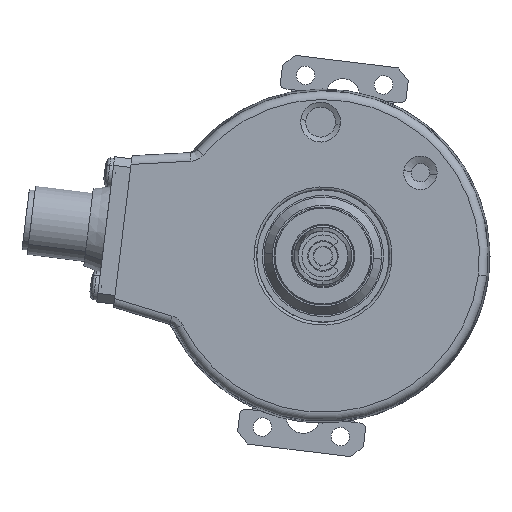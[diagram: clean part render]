
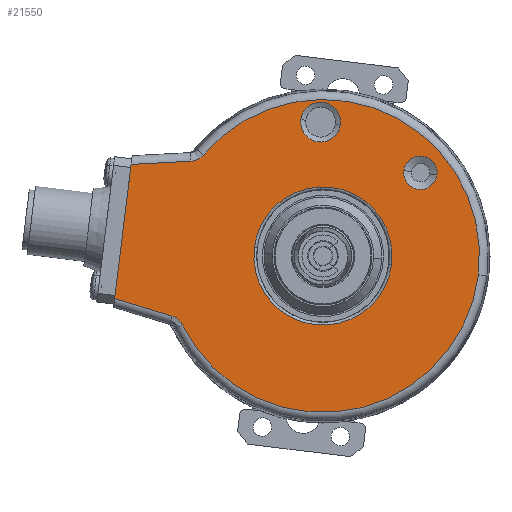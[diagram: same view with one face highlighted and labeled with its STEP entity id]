
A CAD part, left-side view. The second image highlights one B-rep face of the part: STEP entity #21550.
In plain terms, the highlighted planar face has unit normal (-1, 0, 0).
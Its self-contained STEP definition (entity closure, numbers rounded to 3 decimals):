
#19 = VERTEX_POINT ( 'NONE', #14726 ) ;
#40 = VERTEX_POINT ( 'NONE', #14781 ) ;
#44 = EDGE_CURVE ( 'NONE', #40, #19, #14773, .T. ) ;
#50 = VERTEX_POINT ( 'NONE', #14805 ) ;
#53 = EDGE_CURVE ( 'NONE', #50, #133, #14803, .T. ) ;
#129 = VERTEX_POINT ( 'NONE', #14954 ) ;
#133 = VERTEX_POINT ( 'NONE', #15002 ) ;
#1162 = VERTEX_POINT ( 'NONE', #18617 ) ;
#1226 = EDGE_CURVE ( 'NONE', #129, #1229, #18804, .T. ) ;
#1229 = VERTEX_POINT ( 'NONE', #18796 ) ;
#1243 = EDGE_CURVE ( 'NONE', #1253, #1162, #19058, .T. ) ;
#1253 = VERTEX_POINT ( 'NONE', #19048 ) ;
#1295 = VERTEX_POINT ( 'NONE', #19204 ) ;
#1303 = EDGE_CURVE ( 'NONE', #1315, #1295, #19197, .T. ) ;
#1315 = VERTEX_POINT ( 'NONE', #19241 ) ;
#1365 = ORIENTED_EDGE ( 'NONE', *, *, #21578, .T. ) ;
#1366 = ORIENTED_EDGE ( 'NONE', *, *, #44, .T. ) ;
#1368 = ORIENTED_EDGE ( 'NONE', *, *, #21567, .F. ) ;
#1369 = ORIENTED_EDGE ( 'NONE', *, *, #21545, .F. ) ;
#1370 = ORIENTED_EDGE ( 'NONE', *, *, #21742, .F. ) ;
#1371 = ORIENTED_EDGE ( 'NONE', *, *, #1303, .T. ) ;
#1372 = ORIENTED_EDGE ( 'NONE', *, *, #1429, .T. ) ;
#1423 = ORIENTED_EDGE ( 'NONE', *, *, #21558, .T. ) ;
#1426 = VERTEX_POINT ( 'NONE', #19607 ) ;
#1429 = EDGE_CURVE ( 'NONE', #21537, #1426, #19661, .T. ) ;
#1450 = EDGE_LOOP ( 'NONE', ( #1370, #1371, #1369, #1372, #1368, #1365, #1366 ) ) ;
#1454 = ORIENTED_EDGE ( 'NONE', *, *, #53, .T. ) ;
#1455 = ORIENTED_EDGE ( 'NONE', *, *, #21663, .T. ) ;
#1475 = ORIENTED_EDGE ( 'NONE', *, *, #1226, .T. ) ;
#1476 = EDGE_LOOP ( 'NONE', ( #1454, #1455 ) ) ;
#12921 = CARTESIAN_POINT ( 'NONE',  ( -19., 36.168, -7.374 ) ) ;
#12941 = DIRECTION ( 'NONE',  ( 0., -0.122, 0.993 ) ) ;
#12942 = VECTOR ( 'NONE', #12941, 1000. ) ;
#12943 = CARTESIAN_POINT ( 'NONE',  ( -19., 36.354, -8.886 ) ) ;
#12944 = LINE ( 'NONE', #12943, #12942 ) ;
#12954 = PLANE ( 'NONE',  #12956 ) ;
#12955 = CARTESIAN_POINT ( 'NONE',  ( -19., 0., 0. ) ) ;
#12956 = AXIS2_PLACEMENT_3D ( 'NONE', #12955, #13020, #13019 ) ;
#12971 = FACE_OUTER_BOUND ( 'NONE', #1450, .T. ) ;
#12972 = FACE_BOUND ( 'NONE', #1476, .T. ) ;
#12973 = FACE_BOUND ( 'NONE', #21543, .T. ) ;
#12974 = FACE_BOUND ( 'NONE', #21554, .T. ) ;
#12975 = DIRECTION ( 'NONE',  ( 0., -0.993, -0.122 ) ) ;
#12976 = DIRECTION ( 'NONE',  ( 1., 0., 0. ) ) ;
#12977 = CARTESIAN_POINT ( 'NONE',  ( -19., -16.919, 14.45 ) ) ;
#12978 = AXIS2_PLACEMENT_3D ( 'NONE', #12977, #12976, #12975 ) ;
#12979 = CIRCLE ( 'NONE', #12978, 2.899 ) ;
#12985 = CARTESIAN_POINT ( 'NONE',  ( -19., 25.828, -10.557 ) ) ;
#12986 = CARTESIAN_POINT ( 'NONE',  ( -19., 25.471, -10.753 ) ) ;
#12987 = CARTESIAN_POINT ( 'NONE',  ( -19., 25.3, -10.87 ) ) ;
#12988 = CARTESIAN_POINT ( 'NONE',  ( -19., 24.989, -11.135 ) ) ;
#12989 = CARTESIAN_POINT ( 'NONE',  ( -19., 24.848, -11.282 ) ) ;
#12990 = CARTESIAN_POINT ( 'NONE',  ( -19., 24.597, -11.605 ) ) ;
#12991 = CARTESIAN_POINT ( 'NONE',  ( -19., 24.487, -11.781 ) ) ;
#12992 = CARTESIAN_POINT ( 'NONE',  ( -19., 24.396, -11.966 ) ) ;
#13002 = B_SPLINE_CURVE_WITH_KNOTS ( 'NONE', 3,
 ( #12992, #12991, #12990, #12989, #12988, #12987, #12986, #12985, #13048, #13047 ),
 .UNSPECIFIED., .F., .F.,
 ( 4, 2, 2, 2, 4 ),
 ( 0., 0.001, 0.001, 0.002, 0.002 ),
 .UNSPECIFIED. ) ;
#13007 = DIRECTION ( 'NONE',  ( 0., -0.993, -0.122 ) ) ;
#13008 = DIRECTION ( 'NONE',  ( 1., 0., 0. ) ) ;
#13009 = CARTESIAN_POINT ( 'NONE',  ( -19., 0.406, 23.246 ) ) ;
#13010 = AXIS2_PLACEMENT_3D ( 'NONE', #13009, #13008, #13007 ) ;
#13011 = CIRCLE ( 'NONE', #13010, 3.466 ) ;
#13019 = DIRECTION ( 'NONE',  ( 0., -0.993, -0.122 ) ) ;
#13020 = DIRECTION ( 'NONE',  ( 1., 0., 0. ) ) ;
#13047 = CARTESIAN_POINT ( 'NONE',  ( -19., 26.213, -10.418 ) ) ;
#13048 = CARTESIAN_POINT ( 'NONE',  ( -19., 26.016, -10.478 ) ) ;
#13095 = DIRECTION ( 'NONE',  ( 0., -0.993, -0.122 ) ) ;
#13096 = DIRECTION ( 'NONE',  ( -1., 0., 0. ) ) ;
#13192 = CARTESIAN_POINT ( 'NONE',  ( -19., 0., 0. ) ) ;
#13193 = AXIS2_PLACEMENT_3D ( 'NONE', #13192, #13096, #13095 ) ;
#13194 = CIRCLE ( 'NONE', #13193, 27.173 ) ;
#13487 = DIRECTION ( 'NONE',  ( 0., -0.993, -0.122 ) ) ;
#13488 = DIRECTION ( 'NONE',  ( 1., 0., 0. ) ) ;
#13489 = CARTESIAN_POINT ( 'NONE',  ( -19., 0., 0. ) ) ;
#13490 = AXIS2_PLACEMENT_3D ( 'NONE', #13489, #13488, #13487 ) ;
#13496 = CIRCLE ( 'NONE', #13490, 12. ) ;
#13770 = CARTESIAN_POINT ( 'NONE',  ( -19., 20.777, 17.512 ) ) ;
#13771 = CARTESIAN_POINT ( 'NONE',  ( -19., 20.91, 17.355 ) ) ;
#13772 = CARTESIAN_POINT ( 'NONE',  ( -19., 21.056, 17.213 ) ) ;
#13773 = CARTESIAN_POINT ( 'NONE',  ( -19., 21.376, 16.962 ) ) ;
#13774 = CARTESIAN_POINT ( 'NONE',  ( -19., 21.552, 16.851 ) ) ;
#13775 = CARTESIAN_POINT ( 'NONE',  ( -19., 21.917, 16.669 ) ) ;
#13776 = CARTESIAN_POINT ( 'NONE',  ( -19., 22.108, 16.597 ) ) ;
#13777 = CARTESIAN_POINT ( 'NONE',  ( -19., 22.503, 16.493 ) ) ;
#13778 = CARTESIAN_POINT ( 'NONE',  ( -19., 22.708, 16.461 ) ) ;
#13779 = CARTESIAN_POINT ( 'NONE',  ( -19., 22.914, 16.45 ) ) ;
#13782 = CARTESIAN_POINT ( 'NONE',  ( -19., 24.396, -11.966 ) ) ;
#13783 = B_SPLINE_CURVE_WITH_KNOTS ( 'NONE', 3,
 ( #13779, #13778, #13777, #13776, #13775, #13774, #13773, #13772, #13771, #13770 ),
 .UNSPECIFIED., .F., .F.,
 ( 4, 2, 2, 2, 4 ),
 ( 0., 0.001, 0.001, 0.002, 0.002 ),
 .UNSPECIFIED. ) ;
#14726 = CARTESIAN_POINT ( 'NONE',  ( -19., 20.777, 17.512 ) ) ;
#14770 = DIRECTION ( 'NONE',  ( 0., -0.993, -0.122 ) ) ;
#14771 = DIRECTION ( 'NONE',  ( -1., 0., 0. ) ) ;
#14772 = AXIS2_PLACEMENT_3D ( 'NONE', #14780, #14771, #14770 ) ;
#14773 = CIRCLE ( 'NONE', #14772, 27.173 ) ;
#14780 = CARTESIAN_POINT ( 'NONE',  ( -19., 0., 0. ) ) ;
#14781 = CARTESIAN_POINT ( 'NONE',  ( -19., -26.97, -3.312 ) ) ;
#14799 = DIRECTION ( 'NONE',  ( 0., -0.993, -0.122 ) ) ;
#14800 = DIRECTION ( 'NONE',  ( 1., 0., 0. ) ) ;
#14801 = CARTESIAN_POINT ( 'NONE',  ( -19., 0., 0. ) ) ;
#14802 = AXIS2_PLACEMENT_3D ( 'NONE', #14801, #14800, #14799 ) ;
#14803 = CIRCLE ( 'NONE', #14802, 12. ) ;
#14805 = CARTESIAN_POINT ( 'NONE',  ( -19., -11.911, -1.462 ) ) ;
#14954 = CARTESIAN_POINT ( 'NONE',  ( -19., 3.846, 23.669 ) ) ;
#15002 = CARTESIAN_POINT ( 'NONE',  ( -19., 11.911, 1.462 ) ) ;
#18617 = CARTESIAN_POINT ( 'NONE',  ( -19., -19.796, 14.097 ) ) ;
#18796 = CARTESIAN_POINT ( 'NONE',  ( -19., -3.034, 22.824 ) ) ;
#18800 = DIRECTION ( 'NONE',  ( 0., -0.993, -0.122 ) ) ;
#18801 = DIRECTION ( 'NONE',  ( 1., 0., 0. ) ) ;
#18802 = CARTESIAN_POINT ( 'NONE',  ( -19., 0.406, 23.246 ) ) ;
#18803 = AXIS2_PLACEMENT_3D ( 'NONE', #18802, #18801, #18800 ) ;
#18804 = CIRCLE ( 'NONE', #18803, 3.466 ) ;
#19048 = CARTESIAN_POINT ( 'NONE',  ( -19., -14.042, 14.804 ) ) ;
#19054 = DIRECTION ( 'NONE',  ( 0., -0.993, -0.122 ) ) ;
#19055 = DIRECTION ( 'NONE',  ( 1., 0., 0. ) ) ;
#19056 = CARTESIAN_POINT ( 'NONE',  ( -19., -16.919, 14.45 ) ) ;
#19057 = AXIS2_PLACEMENT_3D ( 'NONE', #19056, #19055, #19054 ) ;
#19058 = CIRCLE ( 'NONE', #19057, 2.899 ) ;
#19194 = DIRECTION ( 'NONE',  ( 0., 0.999, -0.052 ) ) ;
#19195 = VECTOR ( 'NONE', #19194, 1000. ) ;
#19196 = CARTESIAN_POINT ( 'NONE',  ( -19., 33.046, 15.919 ) ) ;
#19197 = LINE ( 'NONE', #19196, #19195 ) ;
#19204 = CARTESIAN_POINT ( 'NONE',  ( -19., 33.31, 15.905 ) ) ;
#19241 = CARTESIAN_POINT ( 'NONE',  ( -19., 22.914, 16.45 ) ) ;
#19607 = CARTESIAN_POINT ( 'NONE',  ( -19., 26.213, -10.418 ) ) ;
#19653 = DIRECTION ( 'NONE',  ( 0., -0.956, -0.292 ) ) ;
#19654 = VECTOR ( 'NONE', #19653, 1000. ) ;
#19655 = CARTESIAN_POINT ( 'NONE',  ( -19., 25.556, -10.618 ) ) ;
#19661 = LINE ( 'NONE', #19655, #19654 ) ;
#21537 = VERTEX_POINT ( 'NONE', #12921 ) ;
#21543 = EDGE_LOOP ( 'NONE', ( #1475, #1423 ) ) ;
#21545 = EDGE_CURVE ( 'NONE', #21537, #1295, #12944, .T. ) ;
#21549 = EDGE_CURVE ( 'NONE', #1162, #1253, #12979, .T. ) ;
#21550 = ADVANCED_FACE ( 'NONE', ( #12974, #12973, #12972, #12971 ), #12954, .F. ) ;
#21553 = ORIENTED_EDGE ( 'NONE', *, *, #21549, .T. ) ;
#21554 = EDGE_LOOP ( 'NONE', ( #21555, #21553 ) ) ;
#21555 = ORIENTED_EDGE ( 'NONE', *, *, #1243, .T. ) ;
#21558 = EDGE_CURVE ( 'NONE', #1229, #129, #13011, .T. ) ;
#21567 = EDGE_CURVE ( 'NONE', #21746, #1426, #13002, .T. ) ;
#21578 = EDGE_CURVE ( 'NONE', #21746, #40, #13194, .T. ) ;
#21663 = EDGE_CURVE ( 'NONE', #133, #50, #13496, .T. ) ;
#21742 = EDGE_CURVE ( 'NONE', #1315, #19, #13783, .T. ) ;
#21746 = VERTEX_POINT ( 'NONE', #13782 ) ;
